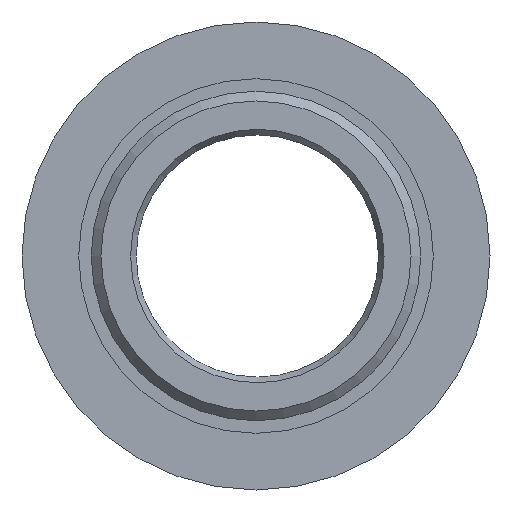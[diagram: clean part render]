
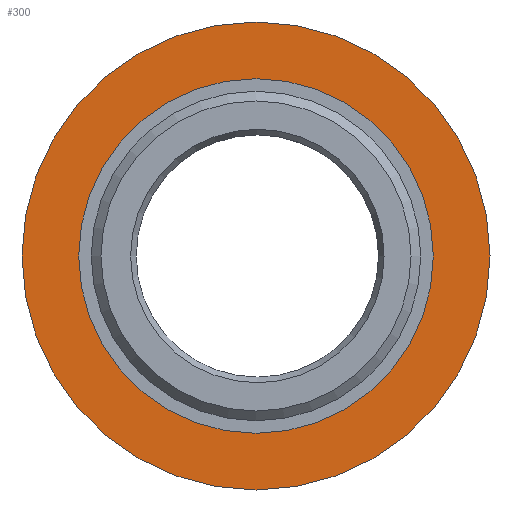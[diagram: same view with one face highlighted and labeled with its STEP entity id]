
A CAD part, left-side view. The second image highlights one B-rep face of the part: STEP entity #300.
In plain terms, the highlighted planar face has unit normal (-1, 0, 0).
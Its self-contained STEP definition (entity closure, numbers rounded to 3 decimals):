
#54 = AXIS2_PLACEMENT_3D ( 'NONE', #1027, #1028, #1029 ) ;
#58 = AXIS2_PLACEMENT_3D ( 'NONE', #996, #997, #998 ) ;
#72 = EDGE_CURVE ( 'NONE', #1156, #1156, #635, .T. ) ;
#80 = EDGE_CURVE ( 'NONE', #1159, #1159, #649, .T. ) ;
#199 = AXIS2_PLACEMENT_3D ( 'NONE', #791, #795, #796 ) ;
#300 = ADVANCED_FACE ( 'NONE', ( #1083, #1100 ), #793, .F. ) ;
#450 = ORIENTED_EDGE ( 'NONE', *, *, #72, .T. ) ;
#489 = ORIENTED_EDGE ( 'NONE', *, *, #80, .F. ) ;
#535 = EDGE_LOOP ( 'NONE', ( #450 ) ) ;
#558 = EDGE_LOOP ( 'NONE', ( #489 ) ) ;
#635 = CIRCLE ( 'NONE', #58, 18.3 ) ;
#649 = CIRCLE ( 'NONE', #54, 24.15 ) ;
#791 = CARTESIAN_POINT ( 'NONE',  ( -9.08, 0.138, 0. ) ) ;
#793 = PLANE ( 'NONE',  #199 ) ;
#795 = DIRECTION ( 'NONE',  ( 1., 0., 0. ) ) ;
#796 = DIRECTION ( 'NONE',  ( 0., 0., -1. ) ) ;
#885 = CARTESIAN_POINT ( 'NONE',  ( -9.08, 0.138, -18.3 ) ) ;
#888 = CARTESIAN_POINT ( 'NONE',  ( -9.08, 0.138, -24.15 ) ) ;
#996 = CARTESIAN_POINT ( 'NONE',  ( -9.08, 0.138, 0. ) ) ;
#997 = DIRECTION ( 'NONE',  ( 1., 0., 0. ) ) ;
#998 = DIRECTION ( 'NONE',  ( 0., 0., -1. ) ) ;
#1027 = CARTESIAN_POINT ( 'NONE',  ( -9.08, 0.138, 0. ) ) ;
#1028 = DIRECTION ( 'NONE',  ( 1., 0., 0. ) ) ;
#1029 = DIRECTION ( 'NONE',  ( 0., 0., -1. ) ) ;
#1083 = FACE_OUTER_BOUND ( 'NONE', #558, .T. ) ;
#1100 = FACE_BOUND ( 'NONE', #535, .T. ) ;
#1156 = VERTEX_POINT ( 'NONE', #885 ) ;
#1159 = VERTEX_POINT ( 'NONE', #888 ) ;
